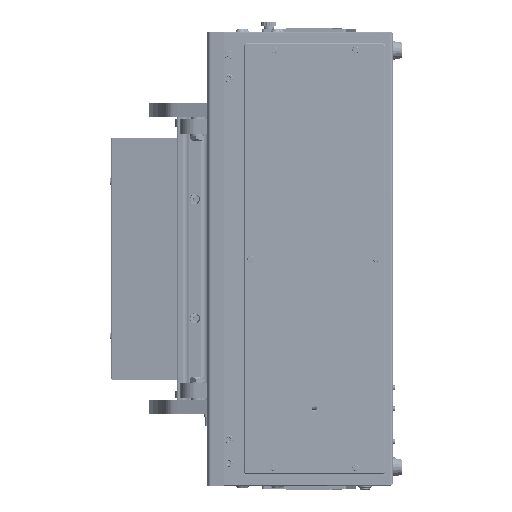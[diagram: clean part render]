
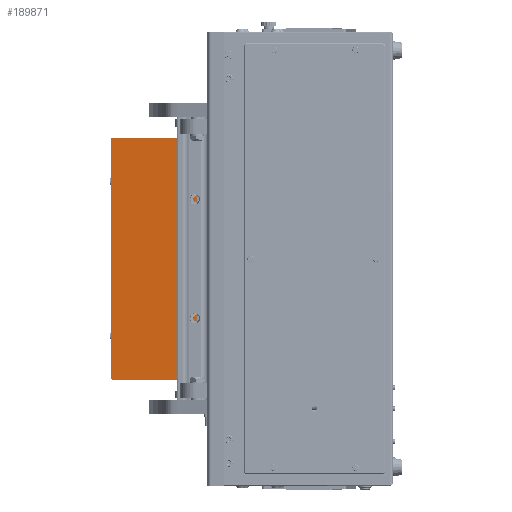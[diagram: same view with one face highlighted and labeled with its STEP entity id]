
A CAD part, left-side view. The second image highlights one B-rep face of the part: STEP entity #189871.
In plain terms, the highlighted planar face has unit normal (-0.996, 0.087, 0) as drawn and (0, -1, 0) by its records, which use the part's own axes.
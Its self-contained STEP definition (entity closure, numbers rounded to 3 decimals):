
#1315 = DIRECTION ( 'NONE',  ( 1., 0., 0. ) ) ;
#8832 = EDGE_CURVE ( 'NONE', #233448, #9806, #54721, .T. ) ;
#9806 = VERTEX_POINT ( 'NONE', #211790 ) ;
#16504 = CARTESIAN_POINT ( 'NONE',  ( 130., 0., 0. ) ) ;
#16533 = DIRECTION ( 'NONE',  ( 0., 0., -1. ) ) ;
#27783 = VECTOR ( 'NONE', #170408, 1000. ) ;
#34616 = VERTEX_POINT ( 'NONE', #213320 ) ;
#54721 = LINE ( 'NONE', #127079, #27783 ) ;
#54947 = LINE ( 'NONE', #190416, #105831 ) ;
#58771 = CARTESIAN_POINT ( 'NONE',  ( 130., 0., 0. ) ) ;
#88364 = EDGE_CURVE ( 'NONE', #233448, #34616, #54947, .T. ) ;
#94363 = AXIS2_PLACEMENT_3D ( 'NONE', #275190, #145796, #16533 ) ;
#95076 = CARTESIAN_POINT ( 'NONE',  ( -130., 0., -100. ) ) ;
#105163 = VECTOR ( 'NONE', #1315, 1000. ) ;
#105831 = VECTOR ( 'NONE', #275479, 1000. ) ;
#124108 = PLANE ( 'NONE',  #94363 ) ;
#127079 = CARTESIAN_POINT ( 'NONE',  ( -130., 0., 0. ) ) ;
#137203 = DIRECTION ( 'NONE',  ( 0., 0., -1. ) ) ;
#137900 = EDGE_CURVE ( 'NONE', #261725, #34616, #219106, .T. ) ;
#137980 = FACE_OUTER_BOUND ( 'NONE', #270646, .T. ) ;
#145796 = DIRECTION ( 'NONE',  ( 0., -1., 0. ) ) ;
#155584 = ORIENTED_EDGE ( 'NONE', *, *, #8832, .F. ) ;
#170408 = DIRECTION ( 'NONE',  ( 0., 0., 1. ) ) ;
#172315 = ORIENTED_EDGE ( 'NONE', *, *, #137900, .F. ) ;
#178378 = VECTOR ( 'NONE', #137203, 1000. ) ;
#184718 = EDGE_CURVE ( 'NONE', #9806, #261725, #243451, .T. ) ;
#189871 = ADVANCED_FACE ( 'NONE', ( #137980 ), #124108, .T. ) ;
#190416 = CARTESIAN_POINT ( 'NONE',  ( 130., 0., -100. ) ) ;
#211790 = CARTESIAN_POINT ( 'NONE',  ( -130., 0., 0. ) ) ;
#213320 = CARTESIAN_POINT ( 'NONE',  ( 130., 0., -100. ) ) ;
#219106 = LINE ( 'NONE', #222165, #178378 ) ;
#222165 = CARTESIAN_POINT ( 'NONE',  ( 130., 0., -102. ) ) ;
#233448 = VERTEX_POINT ( 'NONE', #95076 ) ;
#243451 = LINE ( 'NONE', #58771, #105163 ) ;
#250587 = ORIENTED_EDGE ( 'NONE', *, *, #88364, .T. ) ;
#261725 = VERTEX_POINT ( 'NONE', #16504 ) ;
#270646 = EDGE_LOOP ( 'NONE', ( #155584, #250587, #172315, #271162 ) ) ;
#271162 = ORIENTED_EDGE ( 'NONE', *, *, #184718, .F. ) ;
#275190 = CARTESIAN_POINT ( 'NONE',  ( 0., 0., 0. ) ) ;
#275479 = DIRECTION ( 'NONE',  ( 1., 0., 0. ) ) ;
